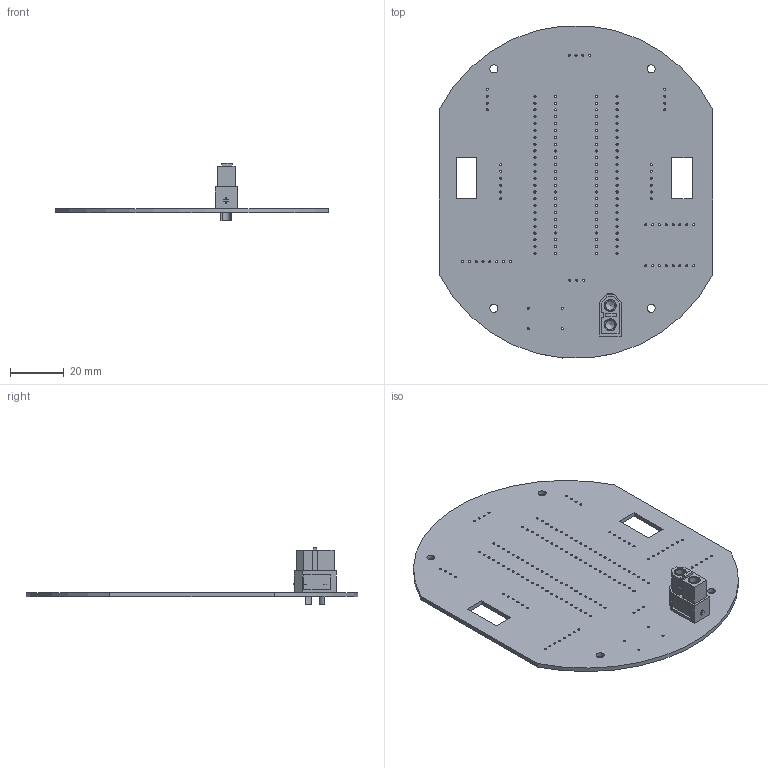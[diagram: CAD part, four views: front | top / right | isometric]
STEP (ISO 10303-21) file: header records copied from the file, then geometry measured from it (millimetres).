
FILE_DESCRIPTION(('KiCad electronic assembly'),'2;1');
FILE_NAME('micromaksdmlas.step','2024-07-26T13:30:45',('Pcbnew'),( 'Kicad'),'Open CASCADE STEP processor 7.8','KiCad to STEP converter' ,'Unknown');
FILE_SCHEMA(('AUTOMOTIVE_DESIGN { 1 0 10303 214 1 1 1 1 }'));
Length unit declared in the file: millimetre
Products named in the file (4): micromaksdmlas 1; AMASS_XT60-F_1x02_P7.2mm_Vertical; XT60 female v5; _autosave-Micromouse_final_PCB
Assembly tree (3 placements, depth 3):
  micromaksdmlas 1
    AMASS_XT60-F_1x02_P7.2mm_Vertical
      XT60 female v5
    _autosave-Micromouse_final_PCB
Bounding box: 101.6 x 123.34 x 21.2 mm (x, y, z)
Volume: 17858.6 mm3; surface area: 24471.9 mm2
Topology: 4 solids, 4 shells, 255 faces, 717 edges, 478 vertices
Faces by surface type: cylinder 171, plane 80, cone 4
Full cylindrical faces by diameter (mm): 0.762 x151, 3 x6, 3.5 x2, 4.3 x4, 4.5 x4, 6 x2
Entity records: 9120 total; most frequent: DIRECTION 1585, CARTESIAN_POINT 1450, ORIENTED_EDGE 1426, EDGE_CURVE 713, AXIS2_PLACEMENT_3D 613, FACE_BOUND 589, EDGE_LOOP 589, VERTEX_POINT 478
